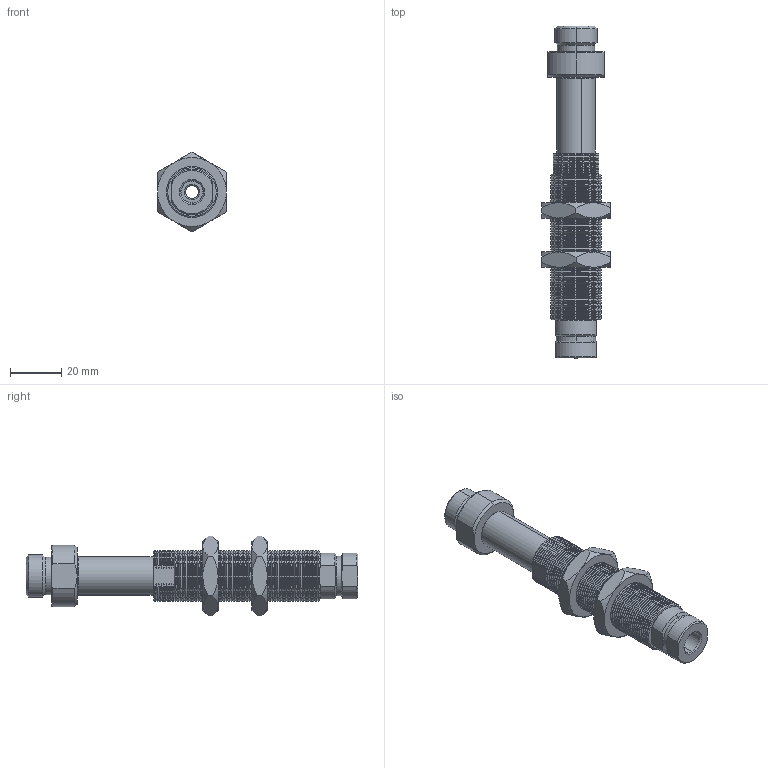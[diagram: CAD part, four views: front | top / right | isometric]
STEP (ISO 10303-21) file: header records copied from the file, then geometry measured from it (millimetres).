
FILE_DESCRIPTION (( 'STEP AP214' ), '1' );
FILE_NAME ('VFHT-30M20-G38F-G18M.STEP', '2023-03-09T01:52:39', ( 'Windows User' ), ( 'P R C' ), 'SwSTEP 2.0', 'SolidWorks 2019', '' );
FILE_SCHEMA (( 'AUTOMOTIVE_DESIGN' ));
Length unit declared in the file: millimetre
Products named in the file (6): VFHT-30M20-G38F-G18M; VFHT-30M20掛极; VFHT-30M20帣裔; VFHT-30M20粣裝; VFHT-30M20踢撿芛; M20-1.0蹟譫
Assembly tree (6 placements, depth 2):
  VFHT-30M20-G38F-G18M
    VFHT-30M20掛极
    VFHT-30M20粣裝
    VFHT-30M20帣裔
    VFHT-30M20踢撿芛
    M20-1.0蹟譫  x2
Bounding box: 27 x 130 x 31.18 mm (x, y, z)
Volume: 31466.8 mm3; surface area: 22946.7 mm2
Topology: 6 solids, 6 shells, 554 faces, 1205 edges, 672 vertices
Faces by surface type: cone 327, cylinder 181, plane 43, torus 3
Entity records: 15008 total; most frequent: CARTESIAN_POINT 2830, DIRECTION 2734, ORIENTED_EDGE 2338, EDGE_CURVE 1169, AXIS2_PLACEMENT_3D 1116, VERTEX_POINT 648, CIRCLE 567, EDGE_LOOP 559
